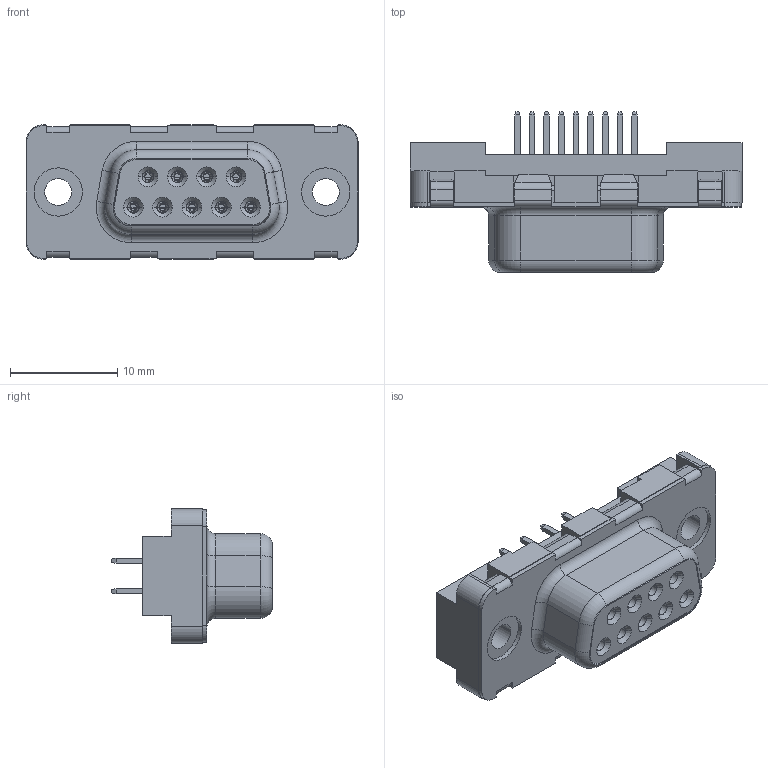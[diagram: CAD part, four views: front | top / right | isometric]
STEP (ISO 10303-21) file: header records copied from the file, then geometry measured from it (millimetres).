
FILE_DESCRIPTION((''),'2;1');
FILE_NAME('PD09S24A4PA00LF','2018-05-25T',('rajana'),('AFCI'),'CREO PARAMETRIC BY PTC INC, 2016130','CREO PARAMETRIC BY PTC INC, 2016130','');
FILE_SCHEMA(('CONFIG_CONTROL_DESIGN'));
Products named in the file (1): PD09S24A4PA00LF
Bounding box: 31 x 15 x 12.55 mm (x, y, z)
Volume: 2138.5 mm3; surface area: 3431.7 mm2
Topology: 1 solids, 1 shells, 1866 faces, 4880 edges, 3004 vertices
Faces by surface type: plane 875, bspline 639, cylinder 296, cone 40, torus 16
Entity records: 73337 total; most frequent: CARTESIAN_POINT 31185, ORIENTED_EDGE 9760, DIRECTION 7018, EDGE_CURVE 4880, VERTEX_POINT 3004, VECTOR 2956, LINE 2956, AXIS2_PLACEMENT_3D 2031
